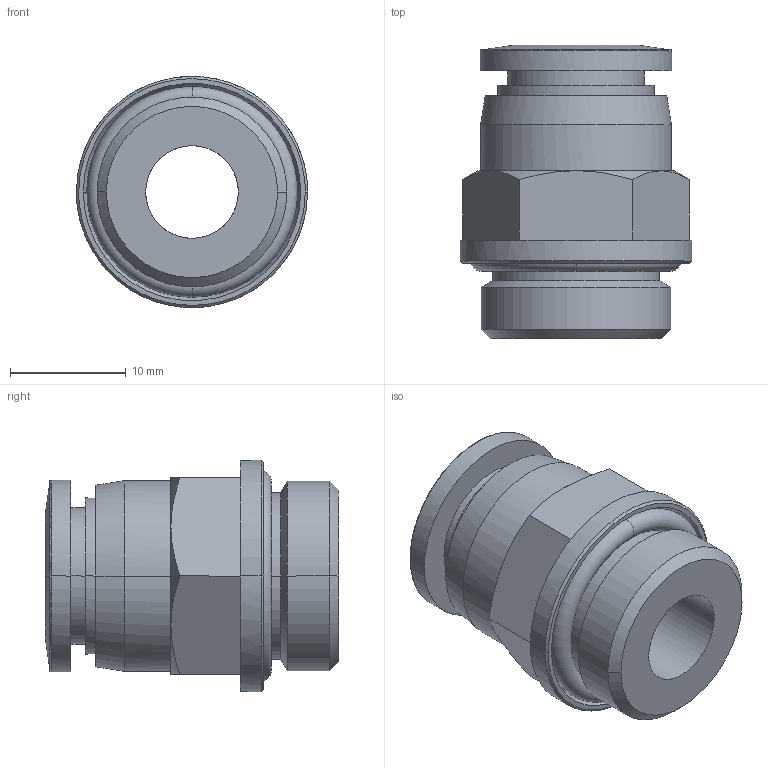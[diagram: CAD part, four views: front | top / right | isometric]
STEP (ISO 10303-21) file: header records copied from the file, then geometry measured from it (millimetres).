
FILE_DESCRIPTION (( 'STEP AP203' ), '1' );
FILE_NAME ('FH10-03.STEP', '2020-05-06T14:35:23', ( '' ), ( '' ), 'SwSTEP 2.0', 'SolidWorks 2019', '' );
FILE_SCHEMA (( 'CONFIG_CONTROL_DESIGN' ));
Length unit declared in the file: millimetre
Products named in the file (1): FH10-03
Bounding box: 20 x 25.35 x 19.99 mm (x, y, z)
Surface area: 3244.6 mm2 (no closed solid volume)
Topology: 0 solids, 4 shells, 64 faces, 146 edges, 93 vertices
Faces by surface type: cylinder 20, cone 19, plane 17, torus 8
Entity records: 3231 total; most frequent: CARTESIAN_POINT 1923, ORIENTED_EDGE 276, DIRECTION 179, EDGE_CURVE 146, B_SPLINE_CURVE_WITH_KNOTS 105, VERTEX_POINT 93, EDGE_LOOP 75, AXIS2_PLACEMENT_3D 73
